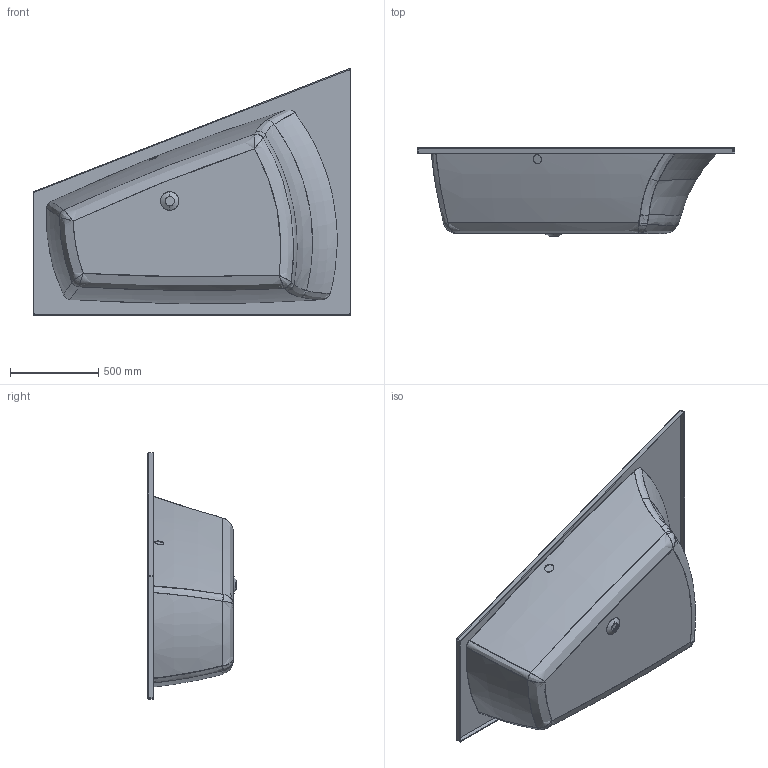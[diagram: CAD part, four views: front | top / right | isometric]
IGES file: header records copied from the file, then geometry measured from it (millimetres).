
Start section: SolidWorks IGES file using analytic representation for surfaces
Global section: file name: D:\Users\M.Szymanski\Desktop\Wanny\Largo\03. do przegrania\gotowe\WTP_LA 180x140.IGS; native system: SolidWorks 2011; preprocessor: SolidWorks 2011; author: M.Szymanski; date: 180607.135842; units: millimetre
Bounding box: 1800 x 500.21 x 1396.31 mm (x, y, z)
Surface area: 7030553.4 mm2 (no closed solid volume)
Topology: 0 solids, 0 shells, 116 faces, 1431 edges, 1421 vertices
Faces by surface type: bspline 86, revolution 30
